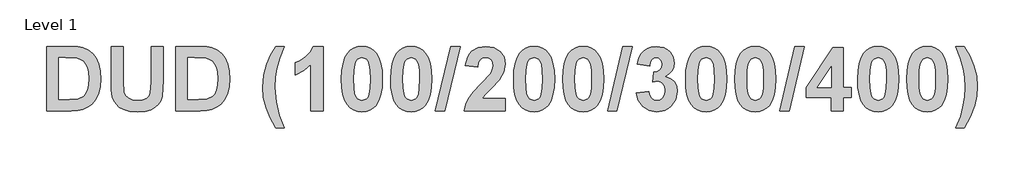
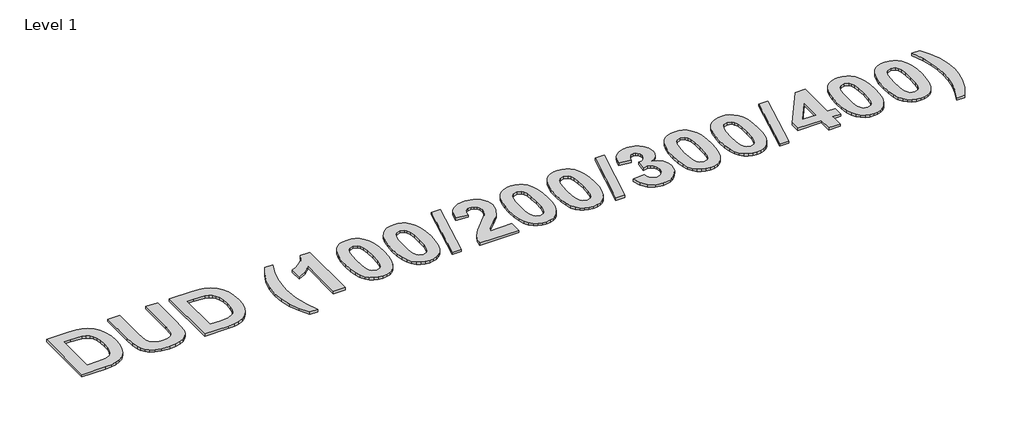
# One storey, part 9 of 42: 1 proxy.
"""IFC4 building model written with IfcOpenShell, lengths in millimetres."""

from ifc_helpers import new_model, si_unit, origin, origin_with_axes, place, context, project, spatial, polyline, outline, extrude, element, save

model = new_model("IFC4")

# Units and contexts
model_context = context("Model", 3, world=origin())
ifc_project = project(units=[si_unit("LENGTHUNIT", "METRE", prefix="MILLI")], contexts=[model_context])

# Site, building, storey
site = spatial("IfcSite", under=ifc_project)
building = spatial("IfcBuilding", under=site)
storey = spatial("IfcBuildingStorey", under=building, Name="Level 1", Elevation=0.0)

# Proxy
placement = place(None, origin())
element("IfcBuildingElementProxy", 1, Name="300mm Arial 2", ObjectType="300mm Arial 2", at=placement, inside=storey, context=model_context, shape_type="SweptSolid", body=[
    extrude(outline(polyline([(13543.7052644, -2889.2204924), (13638.1526406, -2889.2204924), (13666.3033991, -2890.43825), (13686.8629418, -2894.0915225), (13707.7704153, -2903.2879642), (13725.451622, -2917.5926614), (13739.5981689, -2936.3492904), (13749.9016628, -2958.9015272), (13756.1881384, -2986.2061815), (13758.2836302, -3019.2200625), (13756.3225661, -3048.5095034), (13750.4393739, -3073.4972553), (13738.7678797, -3098.6747876), (13722.9844769, -3118.5384689), (13707.2010741, -3130.146703), (13686.6731614, -3138.9082312), (13666.6987749, -3142.9410646), (13640.9360864, -3144.2853424), (13543.7052644, -3144.2853424), (13543.7052644, -2889.2204924)]), holes=[polyline([(13592.2890453, -2933.755625), (13592.2890453, -3099.7502099), (13633.6611713, -3099.7502099), (13667.1890409, -3097.3463249), (13689.5514974, -3086.9400333), (13697.6250717, -3077.2058805), (13704.0696976, -3062.743033), (13708.2923113, -3042.8477216), (13709.6998493, -3016.8161776), (13708.2923113, -2991.1483792), (13704.0696976, -2972.2177849), (13697.3245861, -2958.3638161), (13688.3495549, -2947.9258944), (13676.8915636, -2940.6193492), (13662.6975716, -2936.15951), (13617.2135371, -2933.755625), (13592.2890453, -2933.755625)])]), origin_with_axes(), (0.0, 0.0, 1.0), 10.0),
    extrude(outline(polyline([(13798.7701143, -2889.2204924), (13847.3538953, -2889.2204924), (13847.3538953, -3026.8112783), (13849.4414796, -3069.3220867), (13855.5302673, -3083.3579283), (13866.5849753, -3094.3414686), (13882.6056035, -3101.4345109), (13903.5921521, -3103.7988583), (13924.5549782, -3101.5689387), (13939.618797, -3094.8791798), (13949.3213197, -3084.9394316), (13954.2002573, -3072.9595442), (13956.6674024, -3029.7845045), (13956.6674024, -2889.2204924), (14005.2511834, -2889.2204924), (14005.2511834, -3023.0156704), (14001.0127546, -3087.8573052), (13994.9872271, -3105.3091939), (13985.3875021, -3119.8353016), (13972.079152, -3131.5621485), (13954.9277488, -3140.6162548), (13932.9369456, -3146.4045568), (13905.1103953, -3148.3339908), (13872.5156126, -3146.2305915), (13848.8721384, -3139.9203933), (13831.7128278, -3130.2415932), (13818.5705355, -3118.0323879), (13809.3345563, -3104.2258642), (13803.894185, -3089.7551091), (13800.051132, -3062.6481428), (13798.7701143, -3025.1032548), (13798.7701143, -2889.2204924)])), origin_with_axes(), (0.0, 0.0, 1.0), 10.0),
    extrude(outline(polyline([(14053.8349643, -2889.2204924), (14148.2823406, -2889.2204924), (14176.4330991, -2890.43825), (14196.9926418, -2894.0915225), (14217.9001152, -2903.2879642), (14235.581322, -2917.5926614), (14249.7278689, -2936.3492904), (14260.0313628, -2958.9015272), (14266.3178383, -2986.2061815), (14268.4133302, -3019.2200625), (14266.4522661, -3048.5095034), (14260.5690739, -3073.4972553), (14248.8975796, -3098.6747876), (14233.1141769, -3118.5384689), (14217.3307741, -3130.146703), (14196.8028614, -3138.9082312), (14176.8284749, -3142.9410646), (14151.0657864, -3144.2853424), (14053.8349643, -3144.2853424), (14053.8349643, -2889.2204924)]), holes=[polyline([(14102.4187453, -2933.755625), (14102.4187453, -3099.7502099), (14143.7908712, -3099.7502099), (14177.3187409, -3097.3463249), (14199.6811974, -3086.9400333), (14207.7547717, -3077.2058805), (14214.1993975, -3062.743033), (14218.4220113, -3042.8477216), (14219.8295492, -3016.8161776), (14218.4220113, -2991.1483792), (14214.1993975, -2972.2177849), (14207.454286, -2958.3638161), (14198.4792549, -2947.9258944), (14187.0212636, -2940.6193492), (14172.8272716, -2936.15951), (14127.3432371, -2933.755625), (14102.4187453, -2933.755625)])]), origin_with_axes(), (0.0, 0.0, 1.0), 10.0),
    extrude(outline(polyline([(14482.9916961, -3213.1123654), (14450.6025088, -3213.1123654), (14427.9316592, -3173.4403555), (14411.4128573, -3132.2342874), (14401.3307739, -3090.9333291), (14397.9700794, -3050.9766485), (14402.0819879, -3003.578995), (14414.4177136, -2958.806637), (14430.6123072, -2922.5269516), (14450.6025088, -2889.2204924), (14482.9916961, -2889.2204924), (14465.4291021, -2936.4599956), (14454.3664866, -2976.0766529), (14448.5070169, -3012.9573095), (14446.5538603, -3051.9888106), (14451.2351101, -3108.6382583), (14464.0769168, -3163.7062028), (14482.9916961, -3213.1123654)])), origin_with_axes(), (0.0, 0.0, 1.0), 10.0),
    extrude(outline(polyline([(14636.8403357, -3144.2853424), (14588.2565548, -3144.2853424), (14588.2565548, -2961.9696436), (14560.2006865, -2985.8503432), (14527.5268286, -3002.582648), (14527.5268286, -2953.998867), (14546.9951341, -2944.9131306), (14568.0765729, -2930.1814275), (14586.5327162, -2911.1638505), (14598.1251353, -2889.2204924), (14636.8403357, -2889.2204924), (14636.8403357, -3144.2853424)])), origin_with_axes(), (0.0, 0.0, 1.0), 10.0),
    extrude(outline(polyline([(14790.6889754, -2889.2204924), (14807.8206098, -2890.8652558), (14822.9674575, -2895.7995461), (14836.1295186, -2904.0233632), (14847.3067931, -2915.5367071), (14857.9621714, -2933.6646885), (14865.573156, -2956.9246481), (14870.1397468, -2985.3165859), (14871.6619437, -3018.8405018), (14870.1318392, -3052.3327876), (14865.5415259, -3080.7563554), (14857.8910038, -3104.1112052), (14847.1802728, -3122.3973369), (14836.0583509, -3133.744623), (14822.9358274, -3141.8498274), (14807.8127022, -3146.71295), (14790.6889754, -3148.3339908), (14773.3813988, -3146.5547996), (14757.8332446, -3141.217226), (14744.0445129, -3132.3212701), (14732.0152035, -3119.8669317), (14722.2593051, -3102.8460026), (14715.2908062, -3080.2502744), (14711.1097069, -3052.0797471), (14709.7160072, -3018.3344207), (14711.2461116, -2985.0081927), (14715.8364249, -2956.7032376), (14723.486947, -2933.4195555), (14734.197678, -2915.1571463), (14745.3195999, -2903.8098602), (14758.4421234, -2895.7046559), (14773.5652486, -2890.8415333), (14790.6889754, -2889.2204924)]), holes=[polyline([(14790.6889754, -2933.755625), (14774.4943818, -2939.1011061), (14768.1683686, -2946.5737091), (14763.4871189, -2958.300556), (14759.5966208, -2982.4501111), (14758.2997881, -3018.8405018), (14759.4542855, -3054.7485339), (14762.9177777, -3077.3244933), (14768.1446461, -3090.5774908), (14774.589272, -3098.5166373), (14790.6889754, -3103.7988583), (14806.8835691, -3098.4533772), (14813.2095822, -3090.9807742), (14817.8908319, -3079.2539273), (14821.78133, -3055.2308924), (14823.0781627, -3018.8405018), (14821.9236653, -2982.9720072), (14818.4601731, -2960.3881403), (14813.2333048, -2947.0956052), (14806.7886789, -2939.1011061), (14790.6889754, -2933.755625)])]), origin_with_axes(), (0.0, 0.0, 1.0), 10.0),
    extrude(outline(polyline([(14985.0240992, -2889.2204924), (15002.1557336, -2890.8652558), (15017.3025813, -2895.7995461), (15030.4646424, -2904.0233632), (15041.6419169, -2915.5367071), (15052.2972952, -2933.6646885), (15059.9082798, -2956.9246481), (15064.4748706, -2985.3165859), (15065.9970675, -3018.8405018), (15064.466963, -3052.3327876), (15059.8766497, -3080.7563554), (15052.2261276, -3104.1112052), (15041.5153966, -3122.3973369), (15030.3934747, -3133.744623), (15017.2709512, -3141.8498274), (15002.147826, -3146.71295), (14985.0240992, -3148.3339908), (14967.7165226, -3146.5547996), (14952.1683684, -3141.217226), (14938.3796367, -3132.3212701), (14926.3503273, -3119.8669317), (14916.5944289, -3102.8460026), (14909.62593, -3080.2502744), (14905.4448307, -3052.0797471), (14904.051131, -3018.3344207), (14905.5812354, -2985.0081927), (14910.1715487, -2956.7032376), (14917.8220708, -2933.4195555), (14928.5328018, -2915.1571463), (14939.6547237, -2903.8098602), (14952.7772472, -2895.7046559), (14967.9003724, -2890.8415333), (14985.0240992, -2889.2204924)]), holes=[polyline([(14985.0240992, -2933.755625), (14968.8295056, -2939.1011061), (14962.5034924, -2946.5737091), (14957.8222427, -2958.300556), (14953.9317446, -2982.4501111), (14952.6349119, -3018.8405018), (14953.7894093, -3054.7485339), (14957.2529015, -3077.3244933), (14962.4797699, -3090.5774908), (14968.9243958, -3098.5166373), (14985.0240992, -3103.7988583), (15001.2186929, -3098.4533772), (15007.544706, -3090.9807742), (15012.2259557, -3079.2539273), (15016.1164538, -3055.2308924), (15017.4132865, -3018.8405018), (15016.2587891, -2982.9720072), (15012.7952969, -2960.3881403), (15007.5684286, -2947.0956052), (15001.1238027, -2939.1011061), (14985.0240992, -2933.755625)])]), origin_with_axes(), (0.0, 0.0, 1.0), 10.0),
    extrude(outline(polyline([(15081.3060193, -3144.2853424), (15142.0357455, -2889.2204924), (15179.359223, -2889.2204924), (15118.6294968, -3144.2853424), (15081.3060193, -3144.2853424)])), origin_with_axes(), (0.0, 0.0, 1.0), 10.0),
    extrude(outline(polyline([(15357.4997532, -3095.7015615), (15357.4997532, -3144.2853424), (15195.5538167, -3144.2853424), (15200.7253324, -3119.779949), (15211.0525489, -3096.6188334), (15230.2361837, -3070.4370465), (15261.9769547, -3036.8696392), (15299.5534728, -2996.1301146), (15306.5753474, -2981.422134), (15308.9159722, -2966.9039338), (15306.9470006, -2952.7573869), (15301.0400859, -2942.3273728), (15291.6696789, -2935.8985619), (15279.3102307, -2933.755625), (15267.0377652, -2935.8669319), (15257.5487455, -2942.2008525), (15251.1594722, -2953.4216183), (15248.186246, -2970.1934607), (15199.6024651, -2965.7652515), (15208.205843, -2930.6163409), (15215.8286888, -2917.3771816), (15225.6656392, -2907.0282194), (15250.2896454, -2893.6724242), (15280.3856529, -2889.2204924), (15312.5217997, -2894.2101353), (15336.9402104, -2909.1790639), (15352.3598675, -2931.5652429), (15357.4997532, -2958.806637), (15351.8696015, -2990.9427838), (15334.0302444, -3022.8891502), (15303.8235316, -3054.7722564), (15276.083964, -3082.4169339), (15266.9745051, -3095.7015615), (15357.4997532, -3095.7015615)])), origin_with_axes(), (0.0, 0.0, 1.0), 10.0),
    extrude(outline(polyline([(15470.8619087, -2889.2204924), (15487.9935431, -2890.8652558), (15503.1403908, -2895.7995461), (15516.3024519, -2904.0233632), (15527.4797264, -2915.5367071), (15538.1351048, -2933.6646885), (15545.7460893, -2956.9246481), (15550.3126801, -2985.3165859), (15551.834877, -3018.8405018), (15550.3047725, -3052.3327876), (15545.7144593, -3080.7563554), (15538.0639371, -3104.1112052), (15527.3532061, -3122.3973369), (15516.2312842, -3133.744623), (15503.1087607, -3141.8498274), (15487.9856355, -3146.71295), (15470.8619087, -3148.3339908), (15453.5543321, -3146.5547996), (15438.0061779, -3141.217226), (15424.2174462, -3132.3212701), (15412.1881368, -3119.8669317), (15402.4322384, -3102.8460026), (15395.4637396, -3080.2502744), (15391.2826402, -3052.0797471), (15389.8889405, -3018.3344207), (15391.4190449, -2985.0081927), (15396.0093582, -2956.7032376), (15403.6598803, -2933.4195555), (15414.3706113, -2915.1571463), (15425.4925332, -2903.8098602), (15438.6150567, -2895.7046559), (15453.7381819, -2890.8415333), (15470.8619087, -2889.2204924)]), holes=[polyline([(15470.8619087, -2933.755625), (15454.6673151, -2939.1011061), (15448.3413019, -2946.5737091), (15443.6600522, -2958.300556), (15439.7695541, -2982.4501111), (15438.4727214, -3018.8405018), (15439.6272188, -3054.7485339), (15443.090711, -3077.3244933), (15448.3175794, -3090.5774908), (15454.7622053, -3098.5166373), (15470.8619087, -3103.7988583), (15487.0565024, -3098.4533772), (15493.3825155, -3090.9807742), (15498.0637652, -3079.2539273), (15501.9542633, -3055.2308924), (15503.251096, -3018.8405018), (15502.0965986, -2982.9720072), (15498.6331064, -2960.3881403), (15493.4062381, -2947.0956052), (15486.9616122, -2939.1011061), (15470.8619087, -2933.755625)])]), origin_with_axes(), (0.0, 0.0, 1.0), 10.0),
    extrude(outline(polyline([(15665.1970325, -2889.2204924), (15682.3286669, -2890.8652558), (15697.4755146, -2895.7995461), (15710.6375757, -2904.0233632), (15721.8148502, -2915.5367071), (15732.4702286, -2933.6646885), (15740.0812131, -2956.9246481), (15744.6478039, -2985.3165859), (15746.1700008, -3018.8405018), (15744.6398963, -3052.3327876), (15740.0495831, -3080.7563554), (15732.3990609, -3104.1112052), (15721.6883299, -3122.3973369), (15710.566408, -3133.744623), (15697.4438845, -3141.8498274), (15682.3207594, -3146.71295), (15665.1970325, -3148.3339908), (15647.8894559, -3146.5547996), (15632.3413017, -3141.217226), (15618.55257, -3132.3212701), (15606.5232606, -3119.8669317), (15596.7673622, -3102.8460026), (15589.7988634, -3080.2502744), (15585.617764, -3052.0797471), (15584.2240643, -3018.3344207), (15585.7541687, -2985.0081927), (15590.344482, -2956.7032376), (15597.9950041, -2933.4195555), (15608.7057351, -2915.1571463), (15619.827657, -2903.8098602), (15632.9501805, -2895.7046559), (15648.0733057, -2890.8415333), (15665.1970325, -2889.2204924)]), holes=[polyline([(15665.1970325, -2933.755625), (15649.0024389, -2939.1011061), (15642.6764257, -2946.5737091), (15637.995176, -2958.300556), (15634.1046779, -2982.4501111), (15632.8078452, -3018.8405018), (15633.9623426, -3054.7485339), (15637.4258348, -3077.3244933), (15642.6527032, -3090.5774908), (15649.0973291, -3098.5166373), (15665.1970325, -3103.7988583), (15681.3916262, -3098.4533772), (15687.7176393, -3090.9807742), (15692.398889, -3079.2539273), (15696.2893871, -3055.2308924), (15697.5862198, -3018.8405018), (15696.4317224, -2982.9720072), (15692.9682302, -2960.3881403), (15687.7413619, -2947.0956052), (15681.296736, -2939.1011061), (15665.1970325, -2933.755625)])]), origin_with_axes(), (0.0, 0.0, 1.0), 10.0),
    extrude(outline(polyline([(15761.4789526, -3144.2853424), (15822.2086788, -2889.2204924), (15859.5321563, -2889.2204924), (15798.8024301, -3144.2853424), (15761.4789526, -3144.2853424)])), origin_with_axes(), (0.0, 0.0, 1.0), 10.0),
    extrude(outline(polyline([(15875.72675, -3072.9911743), (15924.3105309, -3067.3610226), (15928.0586937, -3082.986275), (15935.2545337, -3094.4363588), (15945.1072991, -3101.4582334), (15956.8262385, -3103.7988583), (15969.3991896, -3101.1182102), (15979.7896662, -3093.076266), (15986.7640957, -3080.4954074), (15989.0889055, -3064.198016), (15986.9617836, -3048.778359), (15980.5804178, -3036.9328994), (15971.1309357, -3029.3891287), (15959.7994647, -3026.8745385), (15940.5051246, -3030.4803659), (15944.7435534, -2990.4367027), (15958.5737996, -2988.6970491), (15968.6875131, -2982.4659262), (15974.8790985, -2972.5973457), (15976.9429603, -2959.9453194), (15975.4009946, -2949.1990046), (15970.7750975, -2940.8723898), (15963.587165, -2935.5348162), (15954.3590934, -2933.755625), (15944.9728714, -2935.8194868), (15937.0574474, -2942.0110721), (15931.2928679, -2952.1722307), (15928.3591793, -2966.1448123), (15879.7753984, -2958.8698971), (15885.3343824, -2937.1321345), (15893.1549162, -2920.2495869), (15903.8775085, -2907.3366126), (15918.1426681, -2897.5075696), (15935.1359209, -2891.2922617), (15954.0427927, -2889.2204924), (15984.6923264, -2894.9613494), (15997.4787805, -2902.1374205), (16008.573026, -2912.1839201), (16021.2883124, -2932.2057517), (16025.5267412, -2954.6947285), (16023.2533303, -2970.6402354), (16016.4330973, -2984.8856262), (16005.0660425, -2997.430901), (15989.1521657, -3008.2760598), (16009.0158469, -3015.827738), (16024.451319, -3029.1202731), (16034.3673446, -3046.9833527), (16037.6726865, -3068.2466644), (16031.8132168, -3099.0148109), (16014.2348078, -3124.8961121), (16001.7982613, -3135.1501841), (15987.9265006, -3142.4745212), (15955.8773365, -3148.3339908), (15925.6152711, -3143.1229375), (15900.9991725, -3127.4897775), (15883.7845092, -3103.4430201), (15875.72675, -3072.9911743)])), origin_with_axes(), (0.0, 0.0, 1.0), 10.0),
    extrude(outline(polyline([(16151.034842, -2889.2204924), (16168.1664764, -2890.8652558), (16183.3133241, -2895.7995461), (16196.4753852, -2904.0233632), (16207.6526597, -2915.5367071), (16218.3080381, -2933.6646885), (16225.9190226, -2956.9246481), (16230.4856134, -2985.3165859), (16232.0078103, -3018.8405018), (16230.4777058, -3052.3327876), (16225.8873926, -3080.7563554), (16218.2368704, -3104.1112052), (16207.5261394, -3122.3973369), (16196.4042175, -3133.744623), (16183.281694, -3141.8498274), (16168.1585689, -3146.71295), (16151.034842, -3148.3339908), (16133.7272654, -3146.5547996), (16118.1791113, -3141.217226), (16104.3903795, -3132.3212701), (16092.3610701, -3119.8669317), (16082.6051717, -3102.8460026), (16075.6366729, -3080.2502744), (16071.4555735, -3052.0797471), (16070.0618738, -3018.3344207), (16071.5919782, -2985.0081927), (16076.1822915, -2956.7032376), (16083.8328136, -2933.4195555), (16094.5435446, -2915.1571463), (16105.6654665, -2903.8098602), (16118.78799, -2895.7046559), (16133.9111152, -2890.8415333), (16151.034842, -2889.2204924)]), holes=[polyline([(16151.034842, -2933.755625), (16134.8402484, -2939.1011061), (16128.5142352, -2946.5737091), (16123.8329855, -2958.300556), (16119.9424874, -2982.4501111), (16118.6456547, -3018.8405018), (16119.8001521, -3054.7485339), (16123.2636443, -3077.3244933), (16128.4905127, -3090.5774908), (16134.9351386, -3098.5166373), (16151.034842, -3103.7988583), (16167.2294357, -3098.4533772), (16173.5554488, -3090.9807742), (16178.2366985, -3079.2539273), (16182.1271966, -3055.2308924), (16183.4240293, -3018.8405018), (16182.2695319, -2982.9720072), (16178.8060397, -2960.3881403), (16173.5791714, -2947.0956052), (16167.1345455, -2939.1011061), (16151.034842, -2933.755625)])]), origin_with_axes(), (0.0, 0.0, 1.0), 10.0),
    extrude(outline(polyline([(16345.3699658, -2889.2204924), (16362.5016002, -2890.8652558), (16377.6484479, -2895.7995461), (16390.810509, -2904.0233632), (16401.9877835, -2915.5367071), (16412.6431619, -2933.6646885), (16420.2541464, -2956.9246481), (16424.8207372, -2985.3165859), (16426.3429341, -3018.8405018), (16424.8128296, -3052.3327876), (16420.2225164, -3080.7563554), (16412.5719942, -3104.1112052), (16401.8612632, -3122.3973369), (16390.7393413, -3133.744623), (16377.6168178, -3141.8498274), (16362.4936927, -3146.71295), (16345.3699658, -3148.3339908), (16328.0623892, -3146.5547996), (16312.5142351, -3141.217226), (16298.7255033, -3132.3212701), (16286.6961939, -3119.8669317), (16276.9402955, -3102.8460026), (16269.9717967, -3080.2502744), (16265.7906973, -3052.0797471), (16264.3969976, -3018.3344207), (16265.927102, -2985.0081927), (16270.5174153, -2956.7032376), (16278.1679374, -2933.4195555), (16288.8786684, -2915.1571463), (16300.0005903, -2903.8098602), (16313.1231138, -2895.7046559), (16328.246239, -2890.8415333), (16345.3699658, -2889.2204924)]), holes=[polyline([(16345.3699658, -2933.755625), (16329.1753722, -2939.1011061), (16322.849359, -2946.5737091), (16318.1681093, -2958.300556), (16314.2776112, -2982.4501111), (16312.9807785, -3018.8405018), (16314.1352759, -3054.7485339), (16317.5987681, -3077.3244933), (16322.8256365, -3090.5774908), (16329.2702624, -3098.5166373), (16345.3699658, -3103.7988583), (16361.5645595, -3098.4533772), (16367.8905726, -3090.9807742), (16372.5718223, -3079.2539273), (16376.4623204, -3055.2308924), (16377.7591531, -3018.8405018), (16376.6046557, -2982.9720072), (16373.1411635, -2960.3881403), (16367.9142952, -2947.0956052), (16361.4696693, -2939.1011061), (16345.3699658, -2933.755625)])]), origin_with_axes(), (0.0, 0.0, 1.0), 10.0),
    extrude(outline(polyline([(16441.6518859, -3144.2853424), (16502.3816121, -2889.2204924), (16539.7050896, -2889.2204924), (16478.9753634, -3144.2853424), (16441.6518859, -3144.2853424)])), origin_with_axes(), (0.0, 0.0, 1.0), 10.0),
    extrude(outline(polyline([(16644.9699484, -3144.2853424), (16644.9699484, -3091.6529131), (16547.8023865, -3091.6529131), (16547.8023865, -3051.3562093), (16651.4224818, -2893.2691408), (16693.5537293, -2893.2691408), (16693.5537293, -3051.1664289), (16725.9429166, -3051.1664289), (16725.9429166, -3091.6529131), (16693.5537293, -3091.6529131), (16693.5537293, -3144.2853424), (16644.9699484, -3144.2853424)]), holes=[polyline([(16644.9699484, -3051.1664289), (16644.9699484, -2968.2956567), (16590.6927556, -3051.1664289), (16644.9699484, -3051.1664289)])]), origin_with_axes(), (0.0, 0.0, 1.0), 10.0),
    extrude(outline(polyline([(16831.2077753, -2889.2204924), (16848.3394097, -2890.8652558), (16863.4862574, -2895.7995461), (16876.6483185, -2904.0233632), (16887.825593, -2915.5367071), (16898.4809714, -2933.6646885), (16906.0919559, -2956.9246481), (16910.6585467, -2985.3165859), (16912.1807436, -3018.8405018), (16910.6506391, -3052.3327876), (16906.0603259, -3080.7563554), (16898.4098037, -3104.1112052), (16887.6990727, -3122.3973369), (16876.5771508, -3133.744623), (16863.4546273, -3141.8498274), (16848.3315022, -3146.71295), (16831.2077753, -3148.3339908), (16813.9001987, -3146.5547996), (16798.3520446, -3141.217226), (16784.5633128, -3132.3212701), (16772.5340034, -3119.8669317), (16762.778105, -3102.8460026), (16755.8096062, -3080.2502744), (16751.6285068, -3052.0797471), (16750.2348071, -3018.3344207), (16751.7649115, -2985.0081927), (16756.3552248, -2956.7032376), (16764.0057469, -2933.4195555), (16774.7164779, -2915.1571463), (16785.8383998, -2903.8098602), (16798.9609233, -2895.7046559), (16814.0840485, -2890.8415333), (16831.2077753, -2889.2204924)]), holes=[polyline([(16831.2077753, -2933.755625), (16815.0131817, -2939.1011061), (16808.6871685, -2946.5737091), (16804.0059188, -2958.300556), (16800.1154207, -2982.4501111), (16798.818588, -3018.8405018), (16799.9730854, -3054.7485339), (16803.4365776, -3077.3244933), (16808.663446, -3090.5774908), (16815.1080719, -3098.5166373), (16831.2077753, -3103.7988583), (16847.402369, -3098.4533772), (16853.7283821, -3090.9807742), (16858.4096318, -3079.2539273), (16862.3001299, -3055.2308924), (16863.5969626, -3018.8405018), (16862.4424652, -2982.9720072), (16858.978973, -2960.3881403), (16853.7521047, -2947.0956052), (16847.3074788, -2939.1011061), (16831.2077753, -2933.755625)])]), origin_with_axes(), (0.0, 0.0, 1.0), 10.0),
    extrude(outline(polyline([(17025.5428991, -2889.2204924), (17042.6745335, -2890.8652558), (17057.8213812, -2895.7995461), (17070.9834423, -2904.0233632), (17082.1607168, -2915.5367071), (17092.8160952, -2933.6646885), (17100.4270797, -2956.9246481), (17104.9936705, -2985.3165859), (17106.5158674, -3018.8405018), (17104.985763, -3052.3327876), (17100.3954497, -3080.7563554), (17092.7449275, -3104.1112052), (17082.0341965, -3122.3973369), (17070.9122747, -3133.744623), (17057.7897511, -3141.8498274), (17042.666626, -3146.71295), (17025.5428991, -3148.3339908), (17008.2353225, -3146.5547996), (16992.6871684, -3141.217226), (16978.8984366, -3132.3212701), (16966.8691272, -3119.8669317), (16957.1132288, -3102.8460026), (16950.14473, -3080.2502744), (16945.9636306, -3052.0797471), (16944.5699309, -3018.3344207), (16946.1000353, -2985.0081927), (16950.6903486, -2956.7032376), (16958.3408707, -2933.4195555), (16969.0516017, -2915.1571463), (16980.1735236, -2903.8098602), (16993.2960471, -2895.7046559), (17008.4191723, -2890.8415333), (17025.5428991, -2889.2204924)]), holes=[polyline([(17025.5428991, -2933.755625), (17009.3483055, -2939.1011061), (17003.0222923, -2946.5737091), (16998.3410426, -2958.300556), (16994.4505445, -2982.4501111), (16993.1537118, -3018.8405018), (16994.3082092, -3054.7485339), (16997.7717014, -3077.3244933), (17002.9985698, -3090.5774908), (17009.4431957, -3098.5166373), (17025.5428991, -3103.7988583), (17041.7374928, -3098.4533772), (17048.0635059, -3090.9807742), (17052.7447557, -3079.2539273), (17056.6352537, -3055.2308924), (17057.9320864, -3018.8405018), (17056.777589, -2982.9720072), (17053.3140968, -2960.3881403), (17048.0872285, -2947.0956052), (17041.6426026, -2939.1011061), (17025.5428991, -2933.755625)])]), origin_with_axes(), (0.0, 0.0, 1.0), 10.0),
    extrude(outline(polyline([(17138.9050547, -3213.1123654), (17156.9025621, -3167.1222499), (17166.5813622, -3130.2099632), (17173.1920459, -3090.5142307), (17175.3428904, -3051.9888106), (17173.3976414, -3012.9573095), (17167.5618942, -2976.0766529), (17156.5071863, -2936.4599956), (17138.9050547, -2889.2204924), (17171.294242, -2889.2204924), (17193.4906406, -2926.559785), (17210.1043326, -2966.0815521), (17220.4710867, -3006.9792271), (17223.9266713, -3048.4462433), (17221.1590406, -3084.9473391), (17212.8561483, -3123.9788402), (17196.1396586, -3168.8460885), (17171.294242, -3213.1123654), (17138.9050547, -3213.1123654)])), origin_with_axes(), (0.0, 0.0, 1.0), 10.0),
])

save(model, "model.ifc")
